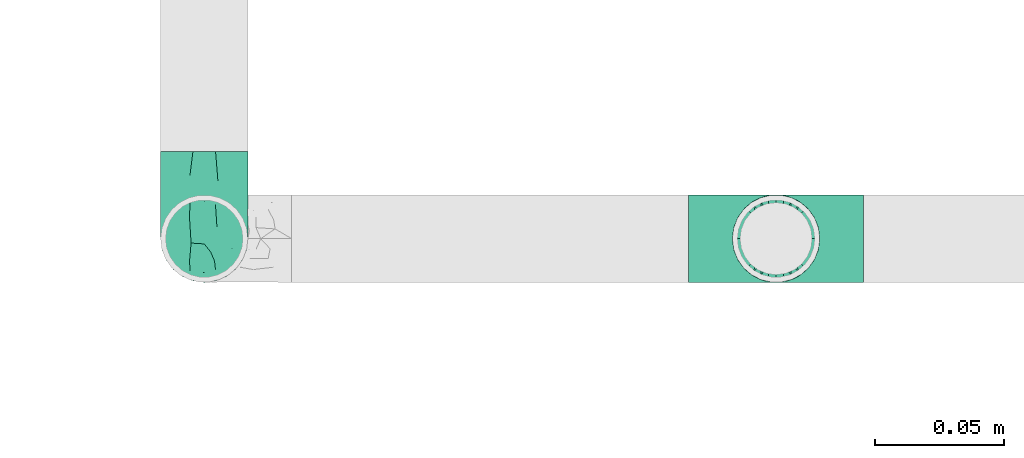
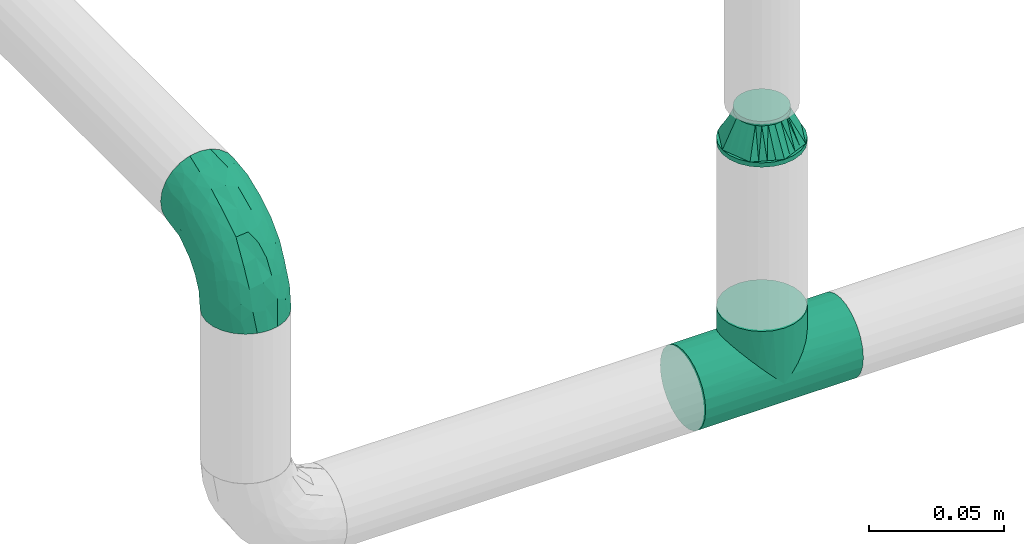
# One storey, part 12 of 43: 3 flow fittings.
"""IFC2X3 building model written with IfcOpenShell, lengths in millimetres."""

from ifc_helpers import new_model, entity, si_unit, converted_unit, derived_unit, direction, frame, origin_with_axes, place, context, subcontext, project, spatial, open_shell, surface_model, source, transform, mapped, type_object, element, save


model = new_model("IFC2X3")

# Units and contexts
model_context = context("Model", 3, precision=0.01, world=frame((0.0, 4.29681676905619e-09, 0.0)), true_north=direction((4.01073788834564e-13, 1.0)))
plan_context = context("Plan", 3, precision=0.01, world=frame((0.0, 4.29681676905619e-09, 0.0)), true_north=direction((4.01073788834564e-13, 1.0)))
body_context = subcontext(model_context, "Body", "Model", "MODEL_VIEW")
ifc_project = project(units=[converted_unit("PLANEANGLEUNIT", "DEGREE", entity("IfcPositiveLengthMeasure", 0.0174532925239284), si_unit("PLANEANGLEUNIT", "RADIAN"), dimensions=[0, 0, 0, 0, 0, 0, 0]), si_unit("AREAUNIT", "SQUARE_METRE"), si_unit("LENGTHUNIT", "METRE", prefix="MILLI"), si_unit("MASSUNIT", "GRAM", prefix="KILO"), si_unit("POWERUNIT", "WATT"), si_unit("PRESSUREUNIT", "PASCAL"), si_unit("FORCEUNIT", "NEWTON", prefix="KILO"), si_unit("ELECTRICVOLTAGEUNIT", "VOLT"), si_unit("ELECTRICCURRENTUNIT", "AMPERE"), si_unit("THERMODYNAMICTEMPERATUREUNIT", "DEGREE_CELSIUS"), si_unit("TIMEUNIT", "SECOND"), si_unit("VOLUMEUNIT", "CUBIC_METRE"), derived_unit("LINEARVELOCITYUNIT", [(si_unit("LENGTHUNIT", "METRE"), 1), (si_unit("TIMEUNIT", "SECOND"), -1)]), derived_unit("VOLUMETRICFLOWRATEUNIT", [(si_unit("VOLUMEUNIT", "CUBIC_METRE"), 1), (si_unit("TIMEUNIT", "SECOND"), -1)]), derived_unit("THERMALTRANSMITTANCEUNIT", [(si_unit("POWERUNIT", "WATT"), 1), (si_unit("THERMODYNAMICTEMPERATUREUNIT", "KELVIN"), -1), (si_unit("AREAUNIT", "SQUARE_METRE"), -1)]), derived_unit("SOUNDPRESSUREUNIT", [(si_unit("PRESSUREUNIT", "PASCAL"), 1)])], contexts=[model_context, plan_context])

# Site, building, storey
site_placement = place(None, frame((0.0, -4.29681676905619e-09, 0.0), z_axis=(0.0, 0.0, 1.0), x_axis=(1.0, 0.0, 0.0)))
site = spatial("IfcSite", under=ifc_project, at=site_placement, CompositionType="ELEMENT")
building_placement = place(site_placement, frame((0.0, 4.29681676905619e-09, 0.0), z_axis=(0.0, 0.0, 1.0), x_axis=(1.0, 0.0, 0.0)))
building = spatial("IfcBuilding", under=site, at=building_placement, Name="mc-building", CompositionType="ELEMENT")
storey_placement = place(building_placement, frame((0.0, 0.0, 210900.0), z_axis=(0.0, 0.0, 1.0), x_axis=(1.0, 0.0, 0.0)))
storey = spatial("IfcBuildingStorey", under=building, at=storey_placement, Name="Nivå F", CompositionType="ELEMENT", Elevation=210900.0)

# Flow fittings
pipe_fitting_type_1 = type_object("IfcPipeFittingType", Name="magi_pipe_fe_elbow_short_001", PredefinedType="BEND")
shared_shape_1 = source(origin_with_axes(), body_context, "Body", "SurfaceModel", [
    surface_model("IfcShellBasedSurfaceModel", [(-33.8, 4.37404, -16.32415), (-33.8, 0.0, -16.9), (-33.8, 11.9501, -11.9501), (-33.8, 8.45, -14.63583), (-33.8, 16.32415, -4.37404), (-33.8, 14.63583, -8.45), (-33.8, -14.63583, -8.45), (-33.8, -16.32415, -4.37404), (-33.8, -8.45, 14.63583), (-33.8, -11.9501, -11.9501), (-33.8, -8.45, -14.63583), (-33.8, -4.37404, -16.32415), (-33.8, -16.9, 0.0), (-33.8, -16.32415, 4.37404), (-33.8, 11.9501, 11.9501), (-33.8, 14.63583, 8.45), (-33.8, 16.32415, 4.37404), (-33.8, 4.37404, 16.32415), (-33.8, 8.45, 14.63583), (-33.8, -14.63583, 8.45), (-33.8, -11.9501, 11.9501), (-33.8, -4.37404, 16.32415), (-33.8, 0.0, 16.9), (-33.8, 16.9, 0.0), (-11.9501, 33.8, -11.9501), (0.0, 33.8, -16.9), (-4.37404, 33.8, -16.32415), (-8.45, 33.8, -14.63583), (-14.63583, 33.8, -8.45), (-16.32415, 33.8, -4.37404), (14.63583, 33.8, -8.45), (8.45, 33.8, 14.63583), (16.32415, 33.8, -4.37404), (8.45, 33.8, -14.63583), (11.9501, 33.8, -11.9501), (4.37404, 33.8, -16.32415), (16.32415, 33.8, 4.37404), (16.9, 33.8, 0.0), (-11.9501, 33.8, 11.9501), (-16.32415, 33.8, 4.37404), (-14.63583, 33.8, 8.45), (-8.45, 33.8, 14.63583), (-4.37404, 33.8, 16.32415), (11.9501, 33.8, 11.9501), (14.63583, 33.8, 8.45), (0.0, 33.8, 16.9), (4.37404, 33.8, 16.32415), (-16.9, 33.8, 0.0), (-24.79389, -13.12945, 9.48721), (-22.19287, -9.75018, 12.59315), (-24.09897, -14.97035, 0.0), (-14.93934, -10.76256, 8.5297), (-22.46095, -14.75051, 5.27077), (14.75051, 22.46094, 5.27077), (11.9251, 13.23888, 4.33236), (13.04069, 14.39795, 0.0), (7.71387, 13.68847, 11.55891), (9.75018, 22.19287, 12.59315), (4.10169, 13.0571, 14.04018), (-24.84007, -6.39063, 15.2048), (-25.81779, -2.23879, 16.61097), (-23.66549, 2.59054, 16.87119), (-26.50418, 14.06512, 11.08152), (-24.21253, 17.66365, 7.72657), (-29.58514, 15.86957, 7.00283), (-6.17382, -7.5455, 0.0), (-13.23888, -11.9251, 4.33236), (-14.39795, -13.04069, 0.0), (-17.81434, 18.87373, 11.97104), (-6.30846, 29.15138, 15.82987), (-2.31622, 25.28002, 16.85849), (-29.23923, 10.23435, 13.77053), (-1.45439, -2.85688, 7.61475), (-0.28326, 0.34872, 10.09509), (-5.74484, -4.04709, 10.4122), (-4.41137, 11.31918, 16.59407), (-8.39727, 3.10034, 15.7812), (-1.72649, 9.1306, 15.53089), (-17.39909, 24.75344, 7.64977), (-26.19233, 20.0512, 0.0), (-28.14518, 17.29657, 4.25857), (-26.05147, 6.6281, 15.96447), (-5.87354, 16.61944, 16.86968), (-12.51807, 12.51807, 16.48937), (-10.06312, 7.38516, 16.81295), (-3.01882, 3.01882, 13.81718), (-13.0571, -4.10169, 14.04018), (-16.82553, -0.15166, 16.38038), (10.76256, 14.93934, 8.5297), (13.12945, 24.79389, 9.48721), (6.39063, 24.84007, 15.2048), (2.23879, 25.81779, 16.61097), (-13.68847, -7.71387, 11.55891), (14.97035, 24.09897, 0.0), (-7.30894, 22.89991, 16.09489), (-10.67958, 26.17414, 14.008), (-12.78295, 18.26924, 15.06066), (-13.88562, 22.45231, 12.93244), (-18.04944, 15.16501, 14.04434), (-23.11658, 20.08178, 4.02986), (-21.84989, 21.84989, 0.0), (-18.55817, 25.48277, 3.93065), (-13.95142, 26.94732, 11.03289), (-18.57098, 7.23906, 16.59756), (-16.58335, 4.14122, 16.89279), (-17.96666, 11.46709, 15.63151), (-9.84453, 17.54304, 16.18938), (0.15166, 16.82553, 16.38038), (-23.27207, 11.47201, 14.23154), (3.84842, 5.86994, 10.70473), (-8.0212, -7.54413, 7.93275), (1.00345, -2.19508, 4.57414), (5.13203, 3.01004, 5.90201), (5.24161, 1.7543, 2.53265), (8.70457, 7.04947, 3.99182), (-20.0512, 26.19233, 0.0), (8.4852, 8.76699, 7.09296), (-4.55488, -6.72064, 4.90681), (2.05031, -2.05031, 0.0), (7.5455, 6.17382, 0.0), (-26.75399, 2.1369, -16.845), (-14.61995, 24.73803, -11.27736), (-28.45274, -13.45335, -9.81895), (-26.00469, 6.63555, -15.96645), (-23.06726, 20.04573, -4.26202), (-13.80647, -4.26506, -14.17873), (-14.67501, -0.21081, -16.07388), (-6.7902, -0.2828, -13.8478), (-24.53586, 11.08096, -14.13417), (-26.72048, 14.00837, -11.05776), (10.0967, 24.44989, -12.75976), (5.83237, 21.40218, -15.03047), (6.66249, 28.54238, -15.38093), (-20.38182, 15.48705, -12.74596), (-15.65186, 19.64213, -13.01327), (-12.03528, 20.66498, -14.67665), (-15.61907, 15.61906, -14.83879), (-25.56551, -15.26206, 0.0), (-24.65452, -15.12934, -5.50955), (12.53268, 21.23441, -9.15363), (13.45335, 28.45274, -9.81895), (15.12934, 24.65452, -5.50955), (-7.35442, -8.31014, -5.65563), (-15.67504, -12.54494, -5.54878), (-24.44989, -10.0967, -12.75976), (0.16522, 0.41303, -9.71728), (-5.70658, -5.33066, -8.89288), (-5.13869, -2.37198, -11.53565), (-21.23441, -12.53268, -9.15363), (0.71146, 7.93863, -14.09382), (0.21081, 14.67501, -16.07388), (3.49291, 14.42772, -14.76381), (-24.89911, -2.13088, -16.591), (-28.54238, -6.66249, -15.38093), (-18.44386, -7.71663, -13.26957), (2.13088, 24.89911, -16.591), (-28.64342, 17.44413, -2.89318), (1.70017, -1.28722, -5.09504), (-16.57067, 26.81947, -7.36596), (-17.69055, 27.4263, -3.76405), (-12.89279, -9.7522, -8.66343), (-5.96611, 5.96611, -15.95814), (-20.53709, 20.09345, -8.28985), (-2.1369, 26.75399, -16.845), (-6.89872, 24.58781, -16.02578), (-10.60739, 26.53157, -13.98044), (-21.40218, -5.83237, -15.03047), (2.93192, 5.89627, -11.55917), (6.89393, 12.61842, -11.82233), (5.58056, 5.95325, -8.79455), (-3.99512, 18.61798, -16.89635), (-9.1383, 9.86148, -16.89041), (-9.99983, 16.02119, -16.39699), (-16.68576, 9.78031, -16.34199), (-27.01915, 16.61158, -7.12979), (15.26206, 25.56551, 0.0), (-18.61798, 3.99512, -16.89635), (-19.37495, 27.82495, 0.0), (9.7522, 12.89279, -8.66343), (-12.61842, -6.89393, -11.82233), (8.31014, 7.35442, -5.65563), (-18.84705, 19.14018, -10.96545), (12.54494, 15.67504, -5.54878)], [open_shell([[[0, 1, 2]], [[3, 0, 2]], [[4, 5, 2]], [[6, 2, 1]], [[2, 7, 8]], [[9, 6, 10]], [[1, 11, 10]], [[10, 6, 1]], [[2, 6, 7]], [[12, 13, 7]], [[4, 2, 14]], [[4, 15, 16]], [[4, 14, 15]], [[17, 18, 14]], [[14, 2, 8]], [[17, 14, 8]], [[19, 20, 13]], [[20, 7, 13]], [[21, 22, 8]], [[20, 8, 7]], [[8, 22, 17]], [[4, 16, 23]], [[24, 25, 26]], [[24, 26, 27]], [[24, 28, 29]], [[25, 24, 30]], [[31, 32, 24]], [[33, 30, 34]], [[33, 35, 25]], [[25, 30, 33]], [[32, 30, 24]], [[32, 36, 37]], [[38, 24, 29]], [[39, 40, 29]], [[40, 38, 29]], [[38, 41, 42]], [[38, 31, 24]], [[31, 38, 42]], [[36, 43, 44]], [[36, 32, 43]], [[31, 45, 46]], [[32, 31, 43]], [[42, 45, 31]], [[39, 29, 47]], [[20, 48, 49]], [[13, 12, 50]], [[51, 48, 52]], [[53, 54, 55]], [[48, 20, 19]], [[13, 52, 19]], [[56, 57, 58]], [[49, 8, 20]], [[49, 59, 8]], [[22, 60, 61]], [[62, 63, 64]], [[65, 66, 67]], [[57, 43, 31]], [[62, 68, 63]], [[42, 69, 70]], [[18, 71, 14]], [[21, 60, 22]], [[72, 73, 74]], [[75, 76, 77]], [[14, 62, 15]], [[40, 39, 78]], [[79, 23, 80]], [[64, 16, 15]], [[22, 61, 17]], [[17, 81, 18]], [[82, 83, 84]], [[74, 85, 86]], [[59, 86, 87]], [[88, 89, 57]], [[90, 31, 46]], [[44, 53, 36]], [[46, 45, 91]], [[54, 53, 88]], [[44, 89, 53]], [[92, 86, 49]], [[89, 44, 43]], [[8, 59, 21]], [[53, 55, 93]], [[93, 36, 53]], [[66, 52, 67]], [[94, 82, 70]], [[95, 96, 94]], [[97, 98, 96]], [[79, 99, 100]], [[41, 38, 95]], [[101, 100, 99]], [[68, 78, 63]], [[42, 41, 69]], [[23, 16, 80]], [[95, 94, 69]], [[78, 101, 99]], [[38, 102, 95]], [[70, 45, 42]], [[97, 95, 102]], [[13, 50, 52]], [[90, 57, 31]], [[57, 90, 58]], [[81, 17, 61]], [[103, 104, 84]], [[105, 81, 103]], [[38, 40, 102]], [[106, 96, 83]], [[94, 106, 82]], [[91, 70, 107]], [[71, 62, 14]], [[62, 108, 98]], [[86, 59, 49]], [[67, 52, 50]], [[60, 59, 87]], [[92, 49, 51]], [[86, 85, 76]], [[91, 90, 46]], [[37, 36, 93]], [[107, 77, 58]], [[107, 58, 90]], [[58, 85, 109]], [[110, 74, 92]], [[72, 74, 110]], [[66, 51, 52]], [[72, 111, 112]], [[113, 114, 112]], [[56, 88, 57]], [[52, 48, 19]], [[49, 48, 51]], [[57, 89, 43]], [[53, 89, 88]], [[103, 81, 61]], [[71, 81, 108]], [[16, 64, 80]], [[63, 78, 99]], [[47, 115, 101]], [[101, 115, 100]], [[40, 78, 102]], [[68, 102, 78]], [[97, 96, 95]], [[105, 98, 108]], [[103, 84, 83]], [[107, 70, 82]], [[76, 84, 87]], [[82, 84, 75]], [[70, 91, 45]], [[90, 91, 107]], [[59, 60, 21]], [[61, 60, 87]], [[73, 85, 74]], [[109, 112, 116]], [[103, 61, 104]], [[105, 103, 83]], [[96, 105, 83]], [[81, 105, 108]], [[96, 98, 105]], [[62, 98, 68]], [[61, 87, 104]], [[87, 84, 104]], [[86, 76, 87]], [[77, 76, 85]], [[58, 77, 85]], [[75, 77, 107]], [[82, 75, 107]], [[76, 75, 84]], [[81, 71, 18]], [[62, 71, 108]], [[95, 69, 41]], [[70, 69, 94]], [[62, 64, 15]], [[80, 63, 99]], [[63, 80, 64]], [[80, 99, 79]], [[66, 65, 117]], [[110, 66, 117]], [[112, 114, 116]], [[118, 117, 65]], [[110, 92, 51]], [[112, 111, 113]], [[119, 55, 54]], [[74, 86, 92]], [[58, 109, 56]], [[116, 56, 109]], [[66, 110, 51]], [[72, 110, 117]], [[111, 72, 117]], [[73, 112, 109]], [[117, 118, 111]], [[113, 111, 118]], [[118, 119, 113]], [[114, 119, 54]], [[119, 114, 113]], [[116, 54, 88]], [[54, 116, 114]], [[116, 88, 56]], [[112, 73, 72]], [[85, 73, 109]], [[78, 39, 101]], [[47, 101, 39]], [[102, 68, 97]], [[97, 68, 98]], [[82, 106, 83]], [[94, 96, 106]], [[0, 120, 1]], [[28, 24, 121]], [[9, 122, 6]], [[3, 123, 0]], [[100, 124, 79]], [[125, 126, 127]], [[128, 2, 129]], [[130, 131, 132]], [[128, 129, 133]], [[134, 135, 136]], [[128, 3, 2]], [[67, 137, 138]], [[139, 140, 141]], [[138, 7, 6]], [[142, 65, 143]], [[144, 9, 10]], [[145, 146, 147]], [[143, 138, 148]], [[149, 150, 151]], [[152, 11, 1]], [[10, 153, 144]], [[148, 144, 154]], [[153, 10, 11]], [[35, 155, 25]], [[23, 79, 156]], [[146, 157, 142]], [[158, 159, 29]], [[143, 160, 142]], [[161, 150, 149]], [[29, 28, 158]], [[121, 162, 158]], [[33, 34, 130]], [[25, 163, 26]], [[26, 163, 164]], [[140, 34, 30]], [[24, 27, 165]], [[124, 159, 162]], [[155, 35, 132]], [[153, 152, 166]], [[123, 3, 128]], [[167, 168, 169]], [[170, 155, 150]], [[26, 164, 27]], [[132, 35, 33]], [[140, 130, 34]], [[166, 152, 126]], [[133, 134, 136]], [[2, 5, 129]], [[168, 131, 130]], [[30, 32, 141]], [[170, 171, 172]], [[173, 123, 128]], [[156, 174, 4]], [[165, 27, 164]], [[172, 164, 170]], [[134, 165, 135]], [[122, 138, 6]], [[137, 12, 7]], [[32, 37, 175]], [[168, 130, 139]], [[150, 155, 131]], [[163, 155, 170]], [[151, 168, 149]], [[150, 161, 171]], [[166, 125, 154]], [[122, 144, 148]], [[120, 152, 1]], [[176, 171, 126]], [[176, 126, 152]], [[126, 161, 127]], [[160, 143, 148]], [[137, 7, 138]], [[32, 175, 141]], [[55, 141, 175]], [[174, 129, 5]], [[128, 133, 136]], [[173, 128, 136]], [[120, 123, 176]], [[121, 158, 28]], [[159, 100, 177]], [[164, 172, 135]], [[121, 24, 165]], [[159, 47, 29]], [[79, 124, 156]], [[124, 162, 174]], [[159, 124, 100]], [[178, 169, 168]], [[127, 161, 149]], [[145, 169, 157]], [[146, 142, 160]], [[127, 149, 167]], [[127, 179, 125]], [[129, 174, 162]], [[5, 4, 174]], [[157, 65, 142]], [[67, 138, 143]], [[123, 120, 0]], [[152, 120, 176]], [[155, 163, 25]], [[164, 163, 170]], [[170, 150, 171]], [[173, 136, 172]], [[126, 171, 161]], [[173, 171, 176]], [[171, 173, 172]], [[123, 173, 176]], [[148, 179, 160]], [[127, 147, 179]], [[179, 146, 160]], [[157, 146, 145]], [[169, 178, 180]], [[168, 139, 178]], [[157, 169, 180]], [[169, 145, 167]], [[167, 145, 147]], [[149, 168, 167]], [[162, 181, 129]], [[181, 121, 134]], [[179, 147, 146]], [[167, 147, 127]], [[181, 134, 133]], [[165, 134, 121]], [[164, 135, 165]], [[172, 136, 135]], [[129, 181, 133]], [[121, 181, 162]], [[159, 158, 162]], [[47, 159, 177]], [[174, 156, 124]], [[23, 156, 4]], [[130, 132, 33]], [[155, 132, 131]], [[141, 140, 30]], [[130, 140, 139]], [[152, 153, 11]], [[144, 153, 166]], [[144, 122, 9]], [[138, 122, 148]], [[150, 131, 151]], [[157, 119, 118]], [[67, 143, 65]], [[168, 151, 131]], [[119, 157, 180]], [[157, 118, 65]], [[154, 125, 179]], [[126, 125, 166]], [[148, 154, 179]], [[166, 154, 144]], [[139, 182, 178]], [[141, 182, 139]], [[178, 182, 180]], [[182, 55, 119]], [[141, 55, 182]], [[182, 119, 180]]])]),
])
flow_fitting_1_placement = place(storey_placement, frame((607879.57252, 689717.7797, 2660.0), z_axis=(1.0, 0.0, 0.0), x_axis=(0.0, -1.0, 0.0)))
element("IfcFlowFitting", 1, at=flow_fitting_1_placement, inside=storey, type_object=pipe_fitting_type_1, Name="magi_pipe_fe_elbow_short_001", context=body_context, shape_type="MappedRepresentation", body=[
    mapped(shared_shape_1, transform((0.0, 0.0, 0.0), scale=1.0)),
])
pipe_fitting_type_2 = type_object("IfcPipeFittingType", Name="magi_pipe_fe_tee_centric_90_NOR", PredefinedType="JUNCTION")
shared_shape_2 = source(origin_with_axes(), body_context, "Body", "SurfaceModel", [
    surface_model("IfcShellBasedSurfaceModel", [(-33.8, 8.45, -14.63583), (-33.8, 4.37404, -16.32415), (-33.8, 11.9501, -11.9501), (-33.8, -11.9501, -11.9501), (-33.8, -14.63583, -8.45), (-33.8, -8.45, -14.63583), (-33.8, 0.0, -16.9), (-33.8, -4.37404, -16.32415), (-33.8, -4.37404, 16.32415), (-33.8, 0.0, 16.9), (-33.8, -8.45, 14.63583), (-33.8, 16.32415, -4.37404), (-33.8, 14.63583, -8.45), (-33.8, -16.9, 0.0), (-33.8, -16.32415, -4.37404), (-33.8, 14.63583, 8.45), (-33.8, 16.32415, 4.37404), (-33.8, 8.45, 14.63583), (-33.8, 11.9501, 11.9501), (-33.8, 4.37404, 16.32415), (-33.8, -11.9501, 11.9501), (-33.8, -14.63583, 8.45), (-33.8, -16.32415, 4.37404), (-33.8, 16.9, 0.0), (33.8, 4.37404, -16.32415), (33.8, -16.9, 0.0), (33.8, 0.0, -16.9), (33.8, 14.63583, -8.45), (33.8, 8.45, -14.63583), (33.8, 16.32415, -4.37404), (33.8, 11.9501, -11.9501), (33.8, -16.32415, 4.37404), (33.8, -8.45, -14.63583), (33.8, -4.37404, -16.32415), (33.8, -11.9501, -11.9501), (33.8, -14.63583, -8.45), (33.8, -16.32415, -4.37404), (33.8, 16.32415, 4.37404), (33.8, 8.45, 14.63583), (33.8, 14.63583, 8.45), (33.8, 11.9501, 11.9501), (33.8, -8.45, 14.63583), (33.8, 4.37404, 16.32415), (33.8, -14.63583, 8.45), (33.8, -11.9501, 11.9501), (33.8, 0.0, 16.9), (33.8, -4.37404, 16.32415), (33.8, 16.9, 0.0), (16.28698, -16.28698, 4.51047), (16.9, -16.9, 0.0), (14.62704, -14.62704, 8.4652), (9.47213, -9.47213, 13.99602), (12.26343, -12.26343, 11.62834), (-16.9, -16.9, 0.0), (-16.28698, -16.28698, 4.51047), (-14.62704, -14.62704, 8.4652), (-12.26343, -12.26343, 11.62834), (-9.47213, -9.47213, 13.99602), (-6.42894, -6.42894, 15.62942), (6.42894, -6.42894, 15.62942), (3.24522, -3.24522, 16.58549), (0.0, 0.0, 16.9), (-3.24522, -3.24522, 16.58549), (3.24522, -3.24522, -16.58549), (0.0, 0.0, -16.9), (-3.24522, -3.24522, -16.58549), (-6.42894, -6.42894, -15.62942), (6.42894, -6.42894, -15.62942), (9.47213, -9.47213, -13.99602), (12.26343, -12.26343, -11.62834), (14.62704, -14.62704, -8.4652), (16.28698, -16.28698, -4.51047), (-9.47213, -9.47213, -13.99602), (-12.26343, -12.26343, -11.62834), (-16.28698, -16.28698, -4.51047), (-14.62704, -14.62704, -8.4652), (4.37404, -25.35, -16.32415), (-16.9, -25.35, 0.0), (0.0, -25.35, -16.9), (14.63583, -25.35, -8.45), (8.45, -25.35, -14.63583), (16.32415, -25.35, -4.37404), (11.9501, -25.35, -11.9501), (-11.9501, -25.35, -11.9501), (-8.45, -25.35, -14.63583), (-4.37404, -25.35, -16.32415), (-14.63583, -25.35, -8.45), (-16.32415, -25.35, -4.37404), (16.9, -25.35, 0.0), (8.45, -25.35, 14.63583), (16.32415, -25.35, 4.37404), (14.63583, -25.35, 8.45), (-8.45, -25.35, 14.63583), (11.9501, -25.35, 11.9501), (4.37404, -25.35, 16.32415), (-16.32415, -25.35, 4.37404), (-11.9501, -25.35, 11.9501), (-14.63583, -25.35, 8.45), (0.0, -25.35, 16.9), (-4.37404, -25.35, 16.32415)], [open_shell([[[0, 1, 2]], [[3, 4, 5]], [[6, 7, 5]], [[8, 9, 10]], [[1, 6, 11]], [[1, 11, 12]], [[2, 1, 12]], [[13, 11, 6]], [[14, 13, 4]], [[6, 5, 4]], [[6, 4, 13]], [[13, 15, 11]], [[15, 16, 11]], [[10, 15, 13]], [[15, 10, 17]], [[18, 15, 17]], [[19, 17, 9]], [[20, 10, 21]], [[22, 21, 10]], [[10, 13, 22]], [[10, 9, 17]], [[23, 11, 16]], [[24, 25, 26]], [[27, 24, 28]], [[27, 29, 24]], [[27, 28, 30]], [[31, 25, 24]], [[26, 32, 33]], [[26, 34, 32]], [[35, 25, 36]], [[35, 34, 26]], [[25, 35, 26]], [[24, 29, 31]], [[29, 37, 38]], [[38, 37, 39]], [[38, 31, 29]], [[38, 39, 40]], [[41, 38, 42]], [[43, 41, 44]], [[41, 43, 31]], [[41, 45, 46]], [[41, 31, 38]], [[42, 45, 41]], [[29, 47, 37]], [[31, 43, 48]], [[25, 31, 49]], [[49, 31, 48]], [[43, 50, 48]], [[44, 41, 51]], [[50, 43, 52]], [[51, 52, 44]], [[52, 43, 44]], [[53, 54, 22]], [[53, 22, 13]], [[22, 54, 21]], [[54, 55, 21]], [[56, 57, 20]], [[20, 21, 56]], [[20, 57, 10]], [[56, 21, 55]], [[10, 57, 58]], [[51, 41, 59]], [[60, 45, 61]], [[59, 46, 60]], [[46, 59, 41]], [[60, 46, 45]], [[61, 45, 42]], [[39, 37, 16]], [[18, 38, 40]], [[15, 40, 39]], [[42, 38, 17]], [[23, 37, 47]], [[62, 61, 9]], [[62, 8, 58]], [[8, 62, 9]], [[58, 8, 10]], [[61, 19, 9]], [[42, 19, 61]], [[17, 19, 42]], [[17, 38, 18]], [[15, 18, 40]], [[16, 15, 39]], [[37, 23, 16]], [[12, 27, 30]], [[23, 47, 29]], [[30, 28, 0]], [[27, 11, 29]], [[26, 33, 63]], [[26, 64, 24]], [[64, 26, 63]], [[28, 24, 1]], [[64, 1, 24]], [[2, 30, 0]], [[11, 27, 12]], [[12, 30, 2]], [[11, 23, 29]], [[65, 66, 7]], [[6, 1, 64]], [[6, 65, 7]], [[66, 5, 7]], [[1, 0, 28]], [[6, 64, 65]], [[63, 33, 67]], [[32, 34, 68]], [[69, 68, 34]], [[35, 70, 69]], [[69, 34, 35]], [[32, 68, 67]], [[36, 25, 49]], [[36, 71, 35]], [[71, 36, 49]], [[35, 71, 70]], [[72, 5, 66]], [[72, 3, 5]], [[3, 72, 73]], [[3, 73, 4]], [[74, 53, 14]], [[75, 74, 4]], [[74, 14, 4]], [[14, 53, 13]], [[75, 4, 73]], [[32, 67, 33]], [[76, 77, 78]], [[79, 76, 80]], [[79, 81, 76]], [[79, 80, 82]], [[77, 76, 81]], [[78, 83, 84]], [[84, 85, 78]], [[86, 77, 87]], [[83, 78, 86]], [[77, 86, 78]], [[81, 88, 77]], [[89, 88, 90]], [[89, 90, 91]], [[92, 77, 89]], [[89, 91, 93]], [[92, 89, 94]], [[95, 96, 97]], [[96, 95, 92]], [[92, 98, 99]], [[95, 77, 92]], [[94, 98, 92]], [[89, 77, 88]], [[77, 95, 53]], [[54, 53, 95]], [[97, 96, 56]], [[96, 92, 57]], [[95, 97, 54]], [[58, 92, 99]], [[55, 54, 97]], [[56, 55, 97]], [[58, 57, 92]], [[98, 61, 62]], [[58, 99, 62]], [[56, 96, 57]], [[62, 99, 98]], [[94, 60, 98]], [[89, 59, 94]], [[91, 90, 48]], [[52, 93, 91]], [[93, 51, 89]], [[49, 90, 88]], [[59, 60, 94]], [[51, 59, 89]], [[49, 48, 90]], [[50, 52, 91]], [[48, 50, 91]], [[51, 93, 52]], [[98, 60, 61]], [[88, 81, 49]], [[71, 49, 81]], [[79, 82, 69]], [[82, 80, 68]], [[81, 79, 71]], [[67, 80, 76]], [[70, 71, 79]], [[69, 70, 79]], [[67, 68, 80]], [[78, 64, 63]], [[67, 76, 63]], [[69, 82, 68]], [[63, 76, 78]], [[85, 65, 78]], [[84, 66, 85]], [[86, 87, 74]], [[86, 73, 83]], [[72, 84, 83]], [[53, 87, 77]], [[66, 65, 85]], [[72, 66, 84]], [[53, 74, 87]], [[75, 73, 86]], [[74, 75, 86]], [[72, 83, 73]], [[78, 65, 64]]])]),
])
flow_fitting_2_placement = place(storey_placement, frame((608100.82252, 689717.7797, 2524.64999999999), z_axis=(0.0, -1.0, 0.0), x_axis=(-1.0, 0.0, 0.0)))
element("IfcFlowFitting", 2, at=flow_fitting_2_placement, inside=storey, type_object=pipe_fitting_type_2, Name="magi_pipe_fe_tee_centric_90_NOR", context=body_context, shape_type="MappedRepresentation", body=[
    mapped(shared_shape_2, transform((0.0, 0.0, 0.0), scale=1.0)),
])
pipe_fitting_type_3 = type_object("IfcPipeFittingType", Name="magi_pipe_fe_reducer_centric_short_NOR", PredefinedType="TRANSITION")
shared_shape_3 = source(origin_with_axes(), body_context, "Body", "SurfaceModel", [
    surface_model("IfcShellBasedSurfaceModel", [(14.4, 4.37404, -16.32415), (14.4, 8.45, -14.63583), (14.4, 11.9501, -11.9501), (14.4, -8.45, -14.63583), (14.4, 16.32415, -4.37404), (14.4, 16.32415, 4.37404), (14.4, 14.63583, -8.45), (14.4, 0.0, -16.9), (14.4, -4.37404, -16.32415), (14.4, -11.9501, -11.9501), (14.4, -16.32415, -4.37404), (14.4, -14.63583, -8.45), (14.4, -16.32415, 4.37404), (14.4, 16.9, 0.0), (14.4, 14.63583, 8.45), (14.4, 11.9501, 11.9501), (14.4, 4.37404, 16.32415), (14.4, 8.45, 14.63583), (14.4, 0.0, 16.9), (14.4, -14.63583, 8.45), (14.4, -16.9, 0.0), (14.4, -8.45, 14.63583), (14.4, -11.9501, 11.9501), (14.4, -4.37404, 16.32415), (12.4, 4.37404, 16.32415), (12.4, -14.63583, 8.45), (12.4, 0.0, 16.9), (12.4, 16.32415, 4.37404), (12.4, 8.45, 14.63583), (12.4, 11.9501, 11.9501), (12.4, 14.63583, 8.45), (12.4, -8.45, 14.63583), (12.4, -11.9501, 11.9501), (12.4, -4.37404, 16.32415), (12.4, -16.32415, 4.37404), (12.4, -16.32415, -4.37404), (12.4, -16.9, 0.0), (12.4, -8.45, -14.63583), (12.4, 16.32415, -4.37404), (12.4, 11.9501, -11.9501), (12.4, 14.63583, -8.45), (12.4, 8.45, -14.63583), (12.4, 4.37404, -16.32415), (12.4, 0.0, -16.9), (12.4, -11.9501, -11.9501), (12.4, -14.63583, -8.45), (12.4, -4.37404, -16.32415), (12.4, 16.9, 0.0), (-2.0, 10.33541, 2.76936), (-2.0, 0.0, 10.7), (-2.0, 2.76936, 10.33541), (-2.0, 7.56604, 7.56604), (-2.0, 5.35, 9.26647), (-2.0, 9.26647, 5.35), (-2.0, -9.26647, 5.35), (-2.0, -2.76936, 10.33541), (-2.0, -7.56604, 7.56604), (-2.0, -5.35, 9.26647), (-2.0, -10.33541, 2.76936), (-2.0, -10.33541, -2.76936), (-2.0, -10.7, 0.0), (-2.0, 10.33541, -2.76936), (-2.0, 7.56604, -7.56604), (-2.0, 9.26647, -5.35), (-2.0, 5.35, -9.26647), (-2.0, -5.35, -9.26647), (-2.0, 2.76936, -10.33541), (-2.0, -7.56604, -7.56604), (-2.0, -9.26647, -5.35), (-2.0, 0.0, -10.7), (-2.0, -2.76936, -10.33541), (-2.0, 10.7, 0.0), (0.0, 5.35, -9.26647), (0.0, 0.0, -10.7), (0.0, 2.76936, -10.33541), (0.0, 10.33541, -2.76936), (0.0, 7.56604, -7.56604), (0.0, -5.35, -9.26647), (0.0, 9.26647, -5.35), (0.0, -9.26647, 5.35), (0.0, -2.76936, -10.33541), (0.0, -7.56604, -7.56604), (0.0, -10.33541, -2.76936), (0.0, -9.26647, -5.35), (0.0, 10.33541, 2.76936), (0.0, 10.7, 0.0), (0.0, 9.26647, 5.35), (0.0, 7.56604, 7.56604), (0.0, 2.76936, 10.33541), (0.0, 0.0, 10.7), (0.0, 5.35, 9.26647), (0.0, -10.33541, 2.76936), (0.0, -10.7, 0.0), (0.0, -7.56604, 7.56604), (0.0, -2.76936, 10.33541), (0.0, -5.35, 9.26647), (0.0, -9.3625, -2.31662), (12.4, -14.42505, -5.97505), (12.4, -15.66253, -2.98753), (0.0, 6.6875, -6.94985), (12.4, 8.96258, -13.18758), (0.0, -6.6875, -6.94985), (12.4, -8.96258, -13.18758), (0.0, 9.3625, -2.31662), (12.4, 15.66253, -2.98753), (12.4, 14.42505, -5.97505), (12.4, -5.97505, -14.42505), (12.4, 5.97505, -14.42505), (0.0, 2.675, -9.26647), (12.4, 13.18758, -8.96258), (0.0, -2.675, -9.26647), (12.4, -13.18758, -8.96258), (0.0, -8.025, -4.63324), (12.4, 2.98753, -15.66253), (0.0, 0.0, -9.26647), (12.4, -2.98753, -15.66253), (0.0, 8.025, -4.63324), (0.0, 9.3625, 2.31662), (12.4, 14.42505, 5.97505), (12.4, 15.66253, 2.98753), (0.0, -6.6875, 6.94985), (12.4, -8.96258, 13.18758), (0.0, 6.6875, 6.94985), (12.4, 8.96258, 13.18758), (0.0, -9.3625, 2.31662), (12.4, -15.66253, 2.98753), (12.4, -14.42505, 5.97505), (12.4, 5.97505, 14.42505), (12.4, -5.97505, 14.42505), (0.0, -2.675, 9.26647), (12.4, -13.18758, 8.96258), (0.0, 2.675, 9.26647), (12.4, 13.18758, 8.96258), (0.0, 8.025, 4.63324), (12.4, -2.98753, 15.66253), (0.0, 0.0, 9.26647), (12.4, 2.98753, 15.66253), (0.0, -8.025, 4.63324)], [open_shell([[[0, 1, 2]], [[3, 0, 2]], [[2, 4, 5]], [[4, 2, 6]], [[2, 5, 3]], [[7, 3, 8]], [[7, 0, 3]], [[9, 10, 11]], [[10, 9, 3]], [[3, 12, 10]], [[5, 4, 13]], [[5, 14, 15]], [[5, 15, 16]], [[16, 12, 3]], [[16, 15, 17]], [[12, 16, 18]], [[18, 19, 12]], [[20, 10, 12]], [[19, 21, 22]], [[19, 18, 21]], [[21, 18, 23]], [[3, 5, 16]], [[24, 25, 26]], [[27, 24, 28]], [[29, 30, 27]], [[29, 27, 28]], [[25, 24, 27]], [[31, 25, 32]], [[31, 33, 26]], [[26, 25, 31]], [[34, 25, 27]], [[34, 35, 36]], [[34, 27, 37]], [[27, 38, 39]], [[39, 38, 40]], [[39, 41, 42]], [[37, 27, 39]], [[42, 43, 39]], [[35, 44, 45]], [[44, 35, 37]], [[37, 43, 46]], [[35, 34, 37]], [[39, 43, 37]], [[38, 27, 47]], [[35, 10, 36]], [[45, 11, 35]], [[3, 44, 37]], [[45, 44, 9]], [[8, 37, 46]], [[35, 11, 10]], [[10, 20, 36]], [[8, 3, 37]], [[9, 44, 3]], [[9, 11, 45]], [[7, 8, 46]], [[46, 43, 7]], [[42, 0, 43]], [[41, 1, 42]], [[6, 39, 40]], [[41, 39, 2]], [[4, 40, 38]], [[41, 2, 1]], [[1, 0, 42]], [[13, 4, 38]], [[6, 40, 4]], [[6, 2, 39]], [[47, 13, 38]], [[43, 0, 7]], [[27, 5, 47]], [[30, 14, 27]], [[17, 29, 28]], [[30, 29, 15]], [[16, 28, 24]], [[27, 14, 5]], [[5, 13, 47]], [[16, 17, 28]], [[15, 29, 17]], [[15, 14, 30]], [[18, 16, 24]], [[24, 26, 18]], [[33, 23, 26]], [[31, 21, 33]], [[19, 32, 25]], [[31, 32, 22]], [[12, 25, 34]], [[31, 22, 21]], [[21, 23, 33]], [[20, 12, 34]], [[19, 25, 12]], [[19, 22, 32]], [[36, 20, 34]], [[26, 23, 18]], [[48, 49, 50]], [[51, 50, 52]], [[51, 53, 48]], [[51, 48, 50]], [[49, 48, 54]], [[55, 56, 57]], [[56, 55, 54]], [[58, 59, 60]], [[54, 55, 49]], [[58, 54, 59]], [[54, 48, 61]], [[59, 54, 61]], [[62, 61, 63]], [[59, 62, 64]], [[61, 62, 59]], [[65, 64, 66]], [[59, 67, 68]], [[67, 59, 65]], [[65, 69, 70]], [[65, 59, 64]], [[66, 69, 65]], [[61, 48, 71]], [[72, 73, 74]], [[75, 72, 76]], [[77, 72, 75]], [[75, 76, 78]], [[79, 77, 75]], [[73, 77, 80]], [[73, 72, 77]], [[81, 82, 83]], [[82, 81, 77]], [[77, 79, 82]], [[84, 75, 85]], [[84, 86, 87]], [[75, 87, 79]], [[88, 89, 87]], [[88, 87, 90]], [[79, 87, 89]], [[82, 91, 92]], [[79, 91, 82]], [[93, 94, 95]], [[94, 93, 79]], [[89, 94, 79]], [[75, 84, 87]], [[59, 82, 60]], [[68, 83, 59]], [[77, 67, 65]], [[68, 67, 81]], [[80, 65, 70]], [[59, 83, 82]], [[82, 92, 60]], [[80, 77, 65]], [[81, 67, 77]], [[81, 83, 68]], [[73, 80, 70]], [[70, 69, 73]], [[66, 74, 69]], [[64, 72, 66]], [[78, 62, 63]], [[64, 62, 76]], [[75, 63, 61]], [[64, 76, 72]], [[72, 74, 66]], [[85, 75, 61]], [[78, 63, 75]], [[78, 76, 62]], [[71, 85, 61]], [[69, 74, 73]], [[48, 84, 71]], [[53, 86, 48]], [[90, 51, 52]], [[53, 51, 87]], [[88, 52, 50]], [[48, 86, 84]], [[84, 85, 71]], [[88, 90, 52]], [[87, 51, 90]], [[87, 86, 53]], [[89, 88, 50]], [[50, 49, 89]], [[55, 94, 49]], [[57, 95, 55]], [[79, 56, 54]], [[57, 56, 93]], [[91, 54, 58]], [[57, 93, 95]], [[95, 94, 55]], [[92, 91, 58]], [[79, 54, 91]], [[79, 93, 56]], [[60, 92, 58]], [[49, 94, 89]], [[29, 26, 39]], [[39, 47, 29]], [[36, 26, 32]], [[36, 44, 43]], [[43, 39, 36]], [[36, 39, 26]], [[92, 95, 77]], [[85, 95, 90]], [[85, 72, 77]], [[85, 77, 95]], [[96, 97, 98]], [[92, 96, 98]], [[99, 100, 72]], [[98, 36, 92]], [[44, 101, 102]], [[101, 77, 102]], [[103, 104, 105]], [[85, 47, 104]], [[77, 106, 102]], [[107, 108, 72]], [[109, 39, 99]], [[106, 77, 110]], [[101, 111, 112]], [[113, 114, 108]], [[100, 99, 39]], [[110, 115, 106]], [[99, 116, 109]], [[100, 107, 72]], [[96, 112, 97]], [[105, 116, 103]], [[85, 104, 103]], [[108, 107, 113]], [[113, 43, 114]], [[116, 105, 109]], [[114, 115, 110]], [[43, 115, 114]], [[111, 101, 44]], [[111, 97, 112]], [[117, 118, 119]], [[85, 117, 119]], [[120, 121, 95]], [[119, 47, 85]], [[29, 122, 123]], [[122, 90, 123]], [[124, 125, 126]], [[92, 36, 125]], [[90, 127, 123]], [[128, 129, 95]], [[130, 32, 120]], [[127, 90, 131]], [[122, 132, 133]], [[134, 135, 129]], [[121, 120, 32]], [[131, 136, 127]], [[120, 137, 130]], [[121, 128, 95]], [[117, 133, 118]], [[126, 137, 124]], [[92, 125, 124]], [[129, 128, 134]], [[134, 26, 135]], [[137, 126, 130]], [[135, 136, 131]], [[26, 136, 135]], [[132, 122, 29]], [[132, 118, 133]]])]),
])
flow_fitting_3_placement = place(storey_placement, frame((608100.82252, 689717.7797, 2638.79999999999), z_axis=(0.0, 1.0, 0.0), x_axis=(0.0, 0.0, -1.0)))
element("IfcFlowFitting", 3, at=flow_fitting_3_placement, inside=storey, type_object=pipe_fitting_type_3, Name="magi_pipe_fe_reducer_centric_short_NOR", context=body_context, shape_type="MappedRepresentation", body=[
    mapped(shared_shape_3, transform((0.0, 0.0, 0.0), scale=1.0)),
])

save(model, "model.ifc")
